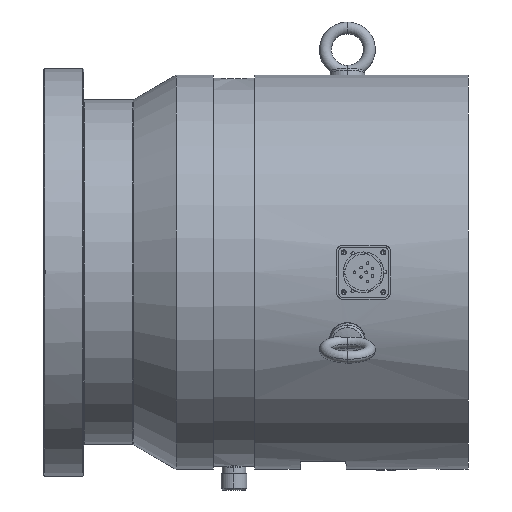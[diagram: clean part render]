
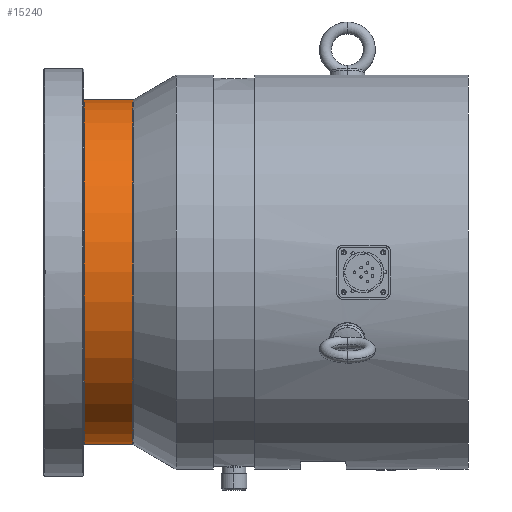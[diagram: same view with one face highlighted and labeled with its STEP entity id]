
A CAD part, left-side view. The second image highlights one B-rep face of the part: STEP entity #15240.
In plain terms, the highlighted cylindrical face has radius 107.1 mm (diameter 214.2 mm), a partial arc.
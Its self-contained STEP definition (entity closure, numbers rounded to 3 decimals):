
#971 = DIRECTION ( 'NONE',  ( 0., 1., 0. ) ) ;
#3771 = CYLINDRICAL_SURFACE ( 'NONE', #28347, 107.1 ) ;
#4539 = FACE_OUTER_BOUND ( 'NONE', #27967, .T. ) ;
#5080 = CARTESIAN_POINT ( 'NONE',  ( 0., 228.562, 107.1 ) ) ;
#6024 = CARTESIAN_POINT ( 'NONE',  ( 0., 198.281, -107.1 ) ) ;
#6526 = CARTESIAN_POINT ( 'NONE',  ( 0., 198.281, 107.1 ) ) ;
#7035 = DIRECTION ( 'NONE',  ( 0., -1., 0. ) ) ;
#7837 = EDGE_CURVE ( 'NONE', #14802, #29050, #26718, .T. ) ;
#8010 = VECTOR ( 'NONE', #9521, 1000. ) ;
#8140 = EDGE_CURVE ( 'NONE', #19680, #29461, #8205, .T. ) ;
#8205 = CIRCLE ( 'NONE', #21816, 107.1 ) ;
#8592 = VECTOR ( 'NONE', #29396, 1000. ) ;
#8598 = CARTESIAN_POINT ( 'NONE',  ( 0., 228.562, -107.1 ) ) ;
#9291 = AXIS2_PLACEMENT_3D ( 'NONE', #21760, #7035, #24240 ) ;
#9521 = DIRECTION ( 'NONE',  ( 0., -1., 0. ) ) ;
#9903 = EDGE_CURVE ( 'NONE', #31053, #14802, #12763, .T. ) ;
#9946 = ORIENTED_EDGE ( 'NONE', *, *, #8140, .T. ) ;
#10651 = ORIENTED_EDGE ( 'NONE', *, *, #7837, .T. ) ;
#10922 = CARTESIAN_POINT ( 'NONE',  ( -107.1, 228.562, 0. ) ) ;
#11189 = DIRECTION ( 'NONE',  ( 0., -1., 0. ) ) ;
#12168 = CARTESIAN_POINT ( 'NONE',  ( 0., 99.5, -107.1 ) ) ;
#12526 = AXIS2_PLACEMENT_3D ( 'NONE', #27674, #12916, #30138 ) ;
#12763 = CIRCLE ( 'NONE', #9291, 107.1 ) ;
#12916 = DIRECTION ( 'NONE',  ( 0., 1., 0. ) ) ;
#14545 = LINE ( 'NONE', #26754, #8010 ) ;
#14802 = VERTEX_POINT ( 'NONE', #8598 ) ;
#15240 = ADVANCED_FACE ( 'NONE', ( #4539 ), #3771, .T. ) ;
#15405 = EDGE_CURVE ( 'NONE', #16078, #29461, #14545, .T. ) ;
#15709 = CARTESIAN_POINT ( 'NONE',  ( 0., 198.281, 0. ) ) ;
#16078 = VERTEX_POINT ( 'NONE', #5080 ) ;
#16329 = CARTESIAN_POINT ( 'NONE',  ( -107.1, 198.281, 0. ) ) ;
#16587 = CIRCLE ( 'NONE', #28614, 107.1 ) ;
#16670 = CIRCLE ( 'NONE', #12526, 107.1 ) ;
#18181 = DIRECTION ( 'NONE',  ( -1., 0., 0. ) ) ;
#19019 = ORIENTED_EDGE ( 'NONE', *, *, #21827, .T. ) ;
#19680 = VERTEX_POINT ( 'NONE', #16329 ) ;
#21760 = CARTESIAN_POINT ( 'NONE',  ( 0., 228.562, 0. ) ) ;
#21816 = AXIS2_PLACEMENT_3D ( 'NONE', #15709, #971, #18181 ) ;
#21827 = EDGE_CURVE ( 'NONE', #29050, #19680, #16670, .T. ) ;
#23506 = EDGE_CURVE ( 'NONE', #16078, #31053, #16587, .T. ) ;
#24240 = DIRECTION ( 'NONE',  ( 0., 0., -1. ) ) ;
#25940 = CARTESIAN_POINT ( 'NONE',  ( 0., 228.562, 0. ) ) ;
#26718 = LINE ( 'NONE', #12168, #8592 ) ;
#26754 = CARTESIAN_POINT ( 'NONE',  ( 0., 99.5, 107.1 ) ) ;
#27674 = CARTESIAN_POINT ( 'NONE',  ( 0., 198.281, 0. ) ) ;
#27967 = EDGE_LOOP ( 'NONE', ( #30404, #29355, #29018, #10651, #19019, #9946 ) ) ;
#28347 = AXIS2_PLACEMENT_3D ( 'NONE', #28465, #30956, #30733 ) ;
#28384 = DIRECTION ( 'NONE',  ( 0., 0., -1. ) ) ;
#28465 = CARTESIAN_POINT ( 'NONE',  ( 0., 99.5, 0. ) ) ;
#28614 = AXIS2_PLACEMENT_3D ( 'NONE', #25940, #11189, #28384 ) ;
#29018 = ORIENTED_EDGE ( 'NONE', *, *, #9903, .T. ) ;
#29050 = VERTEX_POINT ( 'NONE', #6024 ) ;
#29355 = ORIENTED_EDGE ( 'NONE', *, *, #23506, .T. ) ;
#29396 = DIRECTION ( 'NONE',  ( 0., -1., 0. ) ) ;
#29461 = VERTEX_POINT ( 'NONE', #6526 ) ;
#30138 = DIRECTION ( 'NONE',  ( -1., 0., 0. ) ) ;
#30404 = ORIENTED_EDGE ( 'NONE', *, *, #15405, .F. ) ;
#30733 = DIRECTION ( 'NONE',  ( 0., 0., -1. ) ) ;
#30956 = DIRECTION ( 'NONE',  ( 0., -1., 0. ) ) ;
#31053 = VERTEX_POINT ( 'NONE', #10922 ) ;
